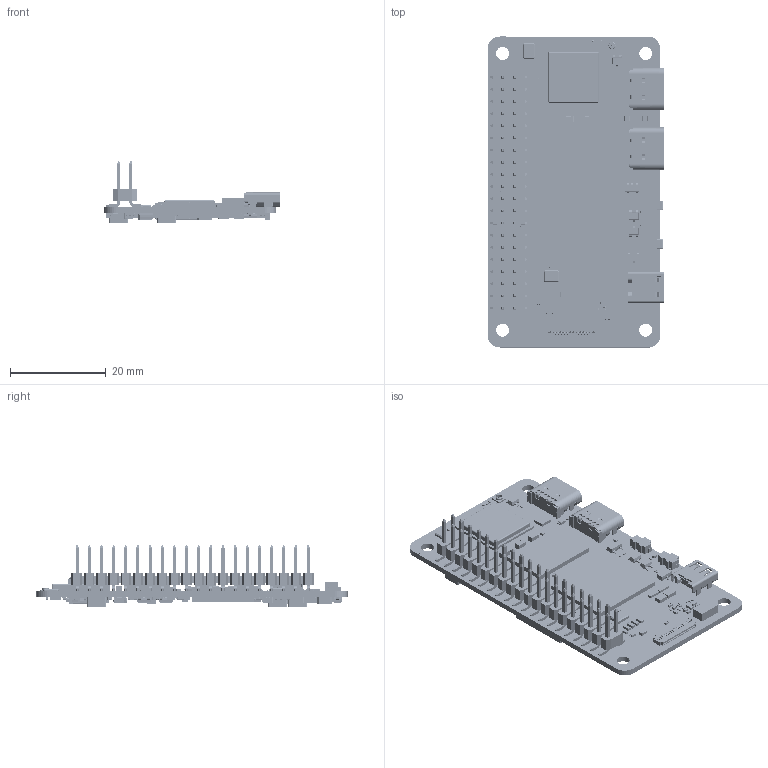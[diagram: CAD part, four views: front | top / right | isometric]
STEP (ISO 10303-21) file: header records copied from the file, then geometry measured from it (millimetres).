
FILE_DESCRIPTION((''),'2;1');
FILE_NAME('1110908-RADXA_ZERO_2_V1_2_PCB16_ASM','2025-07-16T18:03:39',('111'),(''),'CREO PARAMETRIC BY PTC INC, 2025010','CREO PARAMETRIC BY PTC INC, 2025010','');
FILE_SCHEMA(('CONFIG_CONTROL_DESIGN','SHAPE_APPEARANCE_LAYERS_GROUPS'));
Products named in the file (43): 1110908-RADXA_ZERO_2_V1_2_PCB16; BGA169-INAND_2; R0805; SOD123; DFN10; HOLE-PTH-R5_2D2_8; IND_303015; L4020; LED0603; IND-2520; R0402; R0201; C0805; C0201; C0603; C0402; SOT-23; SOT_323; IPEX3; XT-SMD4P3225; CRY4_3R20X2R50X0R80; COMMON-COIL4P; SOT_23_5; SOT23-5; PH0_8_3PIN; SOT23-6; RN0402; DFN2510P10E; SON10_2R50X1R00X0R50; MP8756_QFN12; MLP14_2R50X2R50X0R80; CH482D; AP6XXX; LPDDR4_200; G12A_S905D2; FPC_31P; BODY44-4555; USB-16PIN-TYPEC_FIN_1_252_2_5; TS_1100; 1555298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
Assembly tree (418 placements, depth 2):
  1110908-RADXA_ZERO_2_V1_2_PCB16_ASM
    1110908-RADXA_ZERO_2_V1_2_PCB16
    BGA169-INAND_2
    R0805
    SOD123
    DFN10
    HOLE-PTH-R5_2D2_8
    IND_303015  x2
    L4020  x3
    LED0603  x2
    IND-2520  x3
    R0402  x27
    R0201  x141
    C0805  x14
    C0201  x49
    C0603  x35
    C0402  x95
    SOT-23  x3
    SOT_323  x4
    IPEX3
    XT-SMD4P3225
    CRY4_3R20X2R50X0R80
    COMMON-COIL4P
    SOT_23_5  x3
    SOT23-5  x2
    PH0_8_3PIN
    SOT23-6  x2
    RN0402  x2
    DFN2510P10E  x2
    SON10_2R50X1R00X0R50  x2
    MP8756_QFN12  x2
    MLP14_2R50X2R50X0R80
    CH482D
    AP6XXX
    LPDDR4_200
    G12A_S905D2
    FPC_31P
    BODY44-4555
    USB-16PIN-TYPEC_FIN_1_252_2_5  x2
    TS_1100  x2
    1555298
    USER_LIBRARY-TF-123-ARP9H15
    39PIN
Bounding box: 36.92 x 65 x 12.85 mm (x, y, z)
Volume: 4921.5 mm3; surface area: 12353.8 mm2
Topology: 423 solids, 492 shells, 27021 faces, 62279 edges, 34438 vertices
Faces by surface type: plane 11587, cylinder 10479, sphere 3698, torus 1152, extrusion 44, bspline 31, cone 30
Entity records: 183442 total; most frequent: CARTESIAN_POINT 32881, ORIENTED_EDGE 29512, DIRECTION 28456, EDGE_CURVE 14780, VECTOR 12438, LINE 12420, VERTEX_POINT 9411, AXIS2_PLACEMENT_3D 8009
